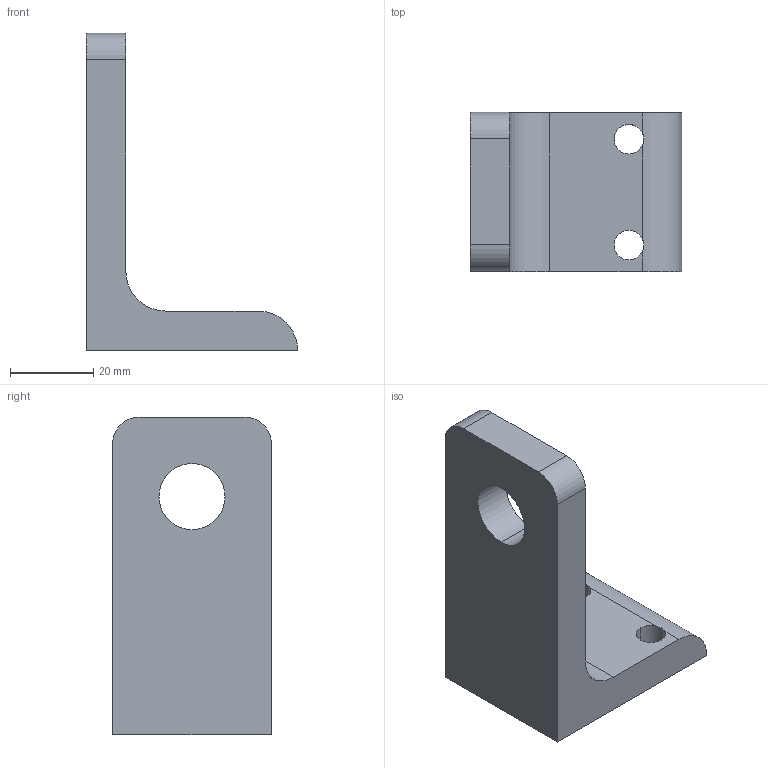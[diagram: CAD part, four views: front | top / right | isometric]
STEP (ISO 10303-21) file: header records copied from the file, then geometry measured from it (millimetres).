
FILE_DESCRIPTION (( 'STEP AP203' ), '1' );
FILE_NAME ('269-18-403.STEP', '2020-03-02T20:26:17', ( '' ), ( '' ), 'SwSTEP 2.0', 'SolidWorks 2017', '' );
FILE_SCHEMA (( 'CONFIG_CONTROL_DESIGN' ));
Length unit declared in the file: inch
Products named in the file (1): 269-18-403
Bounding box: 50.8 x 38.1 x 76.2 mm (x, y, z)
Volume: 39825 mm3; surface area: 11863.1 mm2
Topology: 1 solids, 1 shells, 17 faces, 51 edges, 34 vertices
Faces by surface type: cylinder 10, plane 7
Entity records: 692 total; most frequent: CARTESIAN_POINT 121, DIRECTION 107, ORIENTED_EDGE 102, EDGE_CURVE 51, AXIS2_PLACEMENT_3D 40, VERTEX_POINT 34, LINE 27, VECTOR 27
